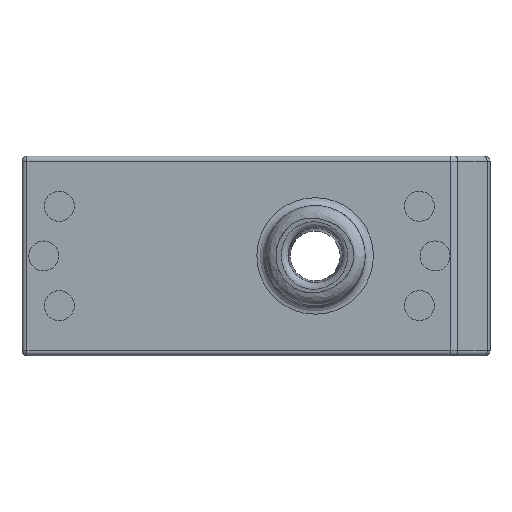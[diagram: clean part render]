
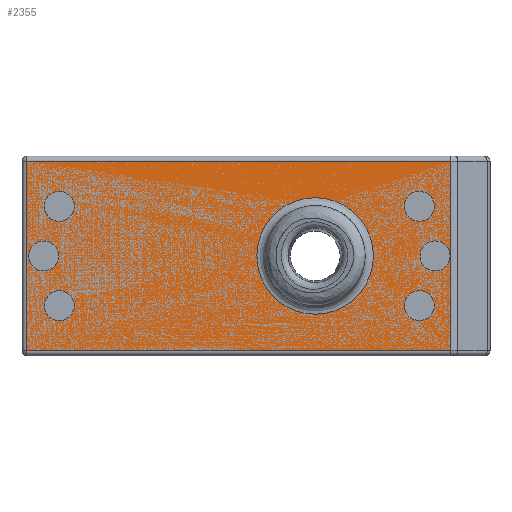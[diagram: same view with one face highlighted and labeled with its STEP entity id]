
A CAD part, top view. The second image highlights one B-rep face of the part: STEP entity #2355.
In plain terms, the highlighted planar face has unit normal (0, 0, 1).
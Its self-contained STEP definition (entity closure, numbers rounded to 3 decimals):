
#1450=CARTESIAN_POINT('',(3.705,-9.583,3.4));
#1451=VERTEX_POINT('',#1450);
#1452=CARTESIAN_POINT('',(2.805,-9.583,3.4));
#1453=DIRECTION('',(0.0,0.0,-1.0));
#1454=DIRECTION('',(-1.0,0.0,0.0));
#1455=AXIS2_PLACEMENT_3D('',#1452,#1453,#1454);
#1456=CIRCLE('',#1455,0.9);
#1457=EDGE_CURVE('',#1451,#1451,#1456,.T.);
#1528=CARTESIAN_POINT('',(26.265,-6.6,3.4));
#1529=VERTEX_POINT('',#1528);
#1530=CARTESIAN_POINT('',(25.365,-6.6,3.4));
#1531=DIRECTION('',(0.0,0.0,-1.0));
#1532=DIRECTION('',(-1.0,0.0,0.0));
#1533=AXIS2_PLACEMENT_3D('',#1530,#1531,#1532);
#1534=CIRCLE('',#1533,0.9);
#1535=EDGE_CURVE('',#1529,#1529,#1534,.T.);
#1625=CARTESIAN_POINT('',(25.325,-3.617,3.4));
#1626=VERTEX_POINT('',#1625);
#1627=CARTESIAN_POINT('',(24.425,-3.617,3.4));
#1628=DIRECTION('',(0.0,0.0,-1.0));
#1629=DIRECTION('',(-1.0,0.0,0.0));
#1630=AXIS2_PLACEMENT_3D('',#1627,#1628,#1629);
#1631=CIRCLE('',#1630,0.9);
#1632=EDGE_CURVE('',#1626,#1626,#1631,.T.);
#1654=CARTESIAN_POINT('',(25.325,-9.583,3.4));
#1655=VERTEX_POINT('',#1654);
#1656=CARTESIAN_POINT('',(24.425,-9.583,3.4));
#1657=DIRECTION('',(0.0,0.0,-1.0));
#1658=DIRECTION('',(-1.0,0.0,0.0));
#1659=AXIS2_PLACEMENT_3D('',#1656,#1657,#1658);
#1660=CIRCLE('',#1659,0.9);
#1661=EDGE_CURVE('',#1655,#1655,#1660,.T.);
#1677=CARTESIAN_POINT('',(2.765,-6.6,3.4));
#1678=VERTEX_POINT('',#1677);
#1679=CARTESIAN_POINT('',(1.865,-6.6,3.4));
#1680=DIRECTION('',(0.0,0.0,-1.0));
#1681=DIRECTION('',(-1.0,0.0,0.0));
#1682=AXIS2_PLACEMENT_3D('',#1679,#1680,#1681);
#1683=CIRCLE('',#1682,0.9);
#1684=EDGE_CURVE('',#1678,#1678,#1683,.T.);
#1700=CARTESIAN_POINT('',(3.705,-3.617,3.4));
#1701=VERTEX_POINT('',#1700);
#1702=CARTESIAN_POINT('',(2.805,-3.617,3.4));
#1703=DIRECTION('',(0.0,0.0,-1.0));
#1704=DIRECTION('',(-1.0,0.0,0.0));
#1705=AXIS2_PLACEMENT_3D('',#1702,#1703,#1704);
#1706=CIRCLE('',#1705,0.9);
#1707=EDGE_CURVE('',#1701,#1701,#1706,.T.);
#1737=CARTESIAN_POINT('',(26.314,-0.9,3.4));
#1738=VERTEX_POINT('',#1737);
#1797=CARTESIAN_POINT('',(26.314,-12.3,3.4));
#1798=VERTEX_POINT('',#1797);
#1852=CARTESIAN_POINT('',(0.865,-0.9,3.4));
#1853=VERTEX_POINT('',#1852);
#1887=CARTESIAN_POINT('',(0.865,-12.3,3.4));
#1888=VERTEX_POINT('',#1887);
#1919=CARTESIAN_POINT('',(26.314,-12.3,3.4));
#1920=DIRECTION('',(-1.0,0.0,0.0));
#1921=VECTOR('',#1920,25.449);
#1922=LINE('',#1919,#1921);
#1923=EDGE_CURVE('',#1798,#1888,#1922,.T.);
#1963=CARTESIAN_POINT('',(0.865,-12.3,3.4));
#1964=DIRECTION('',(0.0,1.0,0.0));
#1965=VECTOR('',#1964,11.4);
#1966=LINE('',#1963,#1965);
#1967=EDGE_CURVE('',#1888,#1853,#1966,.T.);
#1985=CARTESIAN_POINT('',(0.865,-0.9,3.4));
#1986=DIRECTION('',(1.0,0.0,0.0));
#1987=VECTOR('',#1986,25.449);
#1988=LINE('',#1985,#1987);
#1989=EDGE_CURVE('',#1853,#1738,#1988,.T.);
#2256=CARTESIAN_POINT('',(26.314,-0.9,3.4));
#2257=DIRECTION('',(0.0,-1.0,0.0));
#2258=VECTOR('',#2257,11.4);
#2259=LINE('',#2256,#2258);
#2260=EDGE_CURVE('',#1738,#1798,#2259,.T.);
#2315=CARTESIAN_POINT('',(0.965,-6.6,3.4));
#2316=DIRECTION('',(0.0,0.0,1.0));
#2317=DIRECTION('',(1.0,0.0,0.0));
#2318=AXIS2_PLACEMENT_3D('',#2315,#2316,#2317);
#2319=PLANE('',#2318);
#2320=ORIENTED_EDGE('',*,*,#1923,.F.);
#2321=ORIENTED_EDGE('',*,*,#2260,.F.);
#2322=ORIENTED_EDGE('',*,*,#1989,.F.);
#2323=ORIENTED_EDGE('',*,*,#1967,.F.);
#2324=EDGE_LOOP('',(#2320,#2321,#2322,#2323));
#2325=FACE_OUTER_BOUND('',#2324,.T.);
#2326=ORIENTED_EDGE('',*,*,#1535,.T.);
#2327=EDGE_LOOP('',(#2326));
#2328=FACE_BOUND('',#2327,.T.);
#2329=ORIENTED_EDGE('',*,*,#1632,.T.);
#2330=EDGE_LOOP('',(#2329));
#2331=FACE_BOUND('',#2330,.T.);
#2332=ORIENTED_EDGE('',*,*,#1661,.T.);
#2333=EDGE_LOOP('',(#2332));
#2334=FACE_BOUND('',#2333,.T.);
#2335=ORIENTED_EDGE('',*,*,#1684,.T.);
#2336=EDGE_LOOP('',(#2335));
#2337=FACE_BOUND('',#2336,.T.);
#2338=ORIENTED_EDGE('',*,*,#1707,.T.);
#2339=EDGE_LOOP('',(#2338));
#2340=FACE_BOUND('',#2339,.T.);
#2341=ORIENTED_EDGE('',*,*,#1457,.T.);
#2342=EDGE_LOOP('',(#2341));
#2343=FACE_BOUND('',#2342,.T.);
#2344=CARTESIAN_POINT('',(21.665,-6.6,3.4));
#2345=VERTEX_POINT('',#2344);
#2346=CARTESIAN_POINT('',(18.165,-6.6,3.4));
#2347=DIRECTION('',(0.0,0.0,1.0));
#2348=DIRECTION('',(-1.0,0.0,0.0));
#2349=AXIS2_PLACEMENT_3D('',#2346,#2347,#2348);
#2350=CIRCLE('',#2349,3.5);
#2351=EDGE_CURVE('',#2345,#2345,#2350,.T.);
#2352=ORIENTED_EDGE('',*,*,#2351,.F.);
#2353=EDGE_LOOP('',(#2352));
#2354=FACE_BOUND('',#2353,.T.);
#2355=ADVANCED_FACE('',(#2325,#2328,#2331,#2334,#2337,#2340,#2343,#2354),#2319,.T.);
